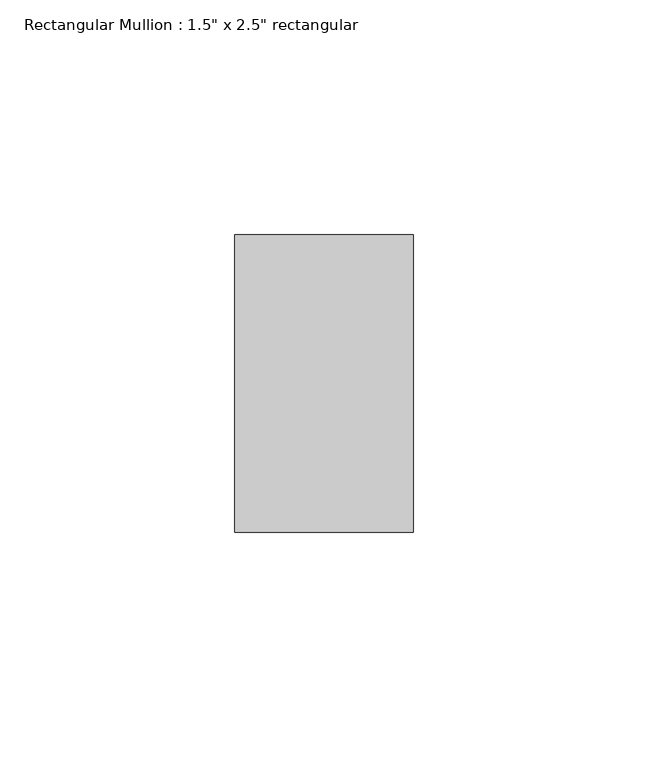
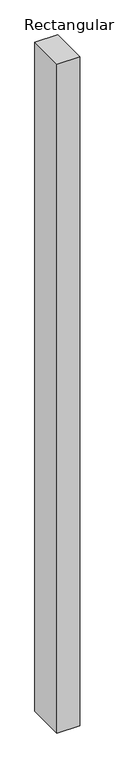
"""IFC4 building model written with IfcOpenShell, lengths in millimetres: member geometry."""

from ifc_helpers import new_model, si_unit, frame, origin, place, context, project, spatial, polyline, outline, extrude, source, transform, mapped, element, save


def member_ecae5a84(model_context):
    return source(origin(), model_context, "Body", "SweptSolid", [
        extrude(outline(polyline([(19.05, 31.75), (19.05, -31.75), (-19.05, -31.75), (-19.05, 31.75), (19.05, 31.75)])), frame((0.0, 0.0, -1179.1100306), z_axis=(0.0, 0.0, 1.0), x_axis=(1.0, 0.0, 0.0)), (0.0, 0.0, 1.0), 1179.1100306),
    ])


if __name__ == "__main__":
    model = new_model("IFC4")
    model_context = context("Model", 3, world=origin())
    ifc_project = project(units=[si_unit("LENGTHUNIT", "METRE", prefix="MILLI")], contexts=[model_context])
    site = spatial("IfcSite", under=ifc_project)
    building = spatial("IfcBuilding", under=site)
    placement = place(None, origin())
    member_shape = member_ecae5a84(model_context)
    element("IfcMember", 1, ObjectType="Rectangular Mullion : 1.5\" x 2.5\" rectangular", at=placement, inside=building, context=model_context, shape_type="MappedRepresentation", body=[
        mapped(member_shape, transform((0.0, 0.0, 0.0), x_axis=(1.0, 0.0, 0.0), y_axis=(0.0, 1.0, 0.0), z_axis=(0.0, 0.0, 1.0))),
    ])
    save(model, "model.ifc")
